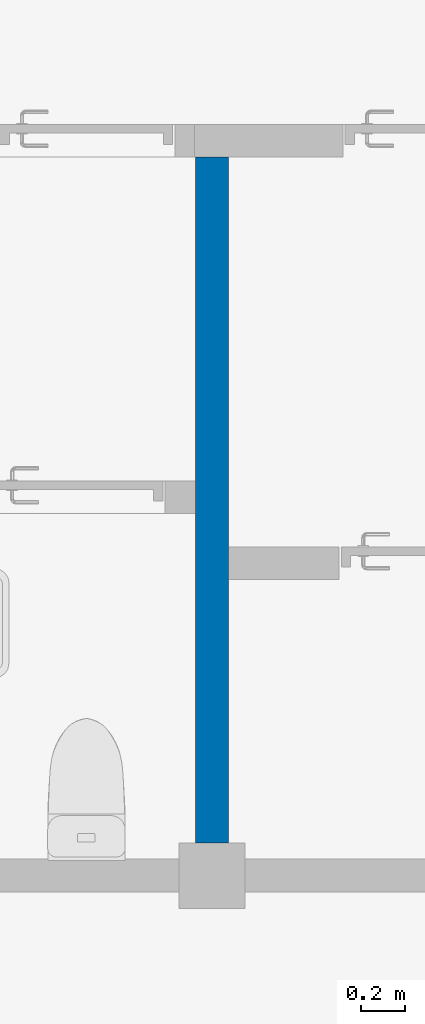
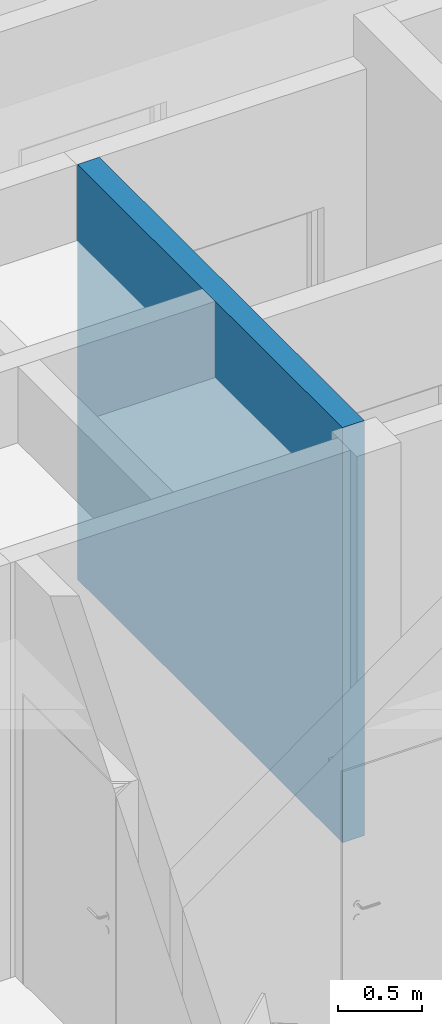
# One storey, part 13 of 58: 1 wall.
"""IFC2X3 building model written with IfcOpenShell, lengths in millimetres."""

from ifc_helpers import new_model, entity, si_unit, converted_unit, derived_unit, direction, frame, frame_2d, origin, place, context, subcontext, project, spatial, polyline, rectangle, extrude, clip, bounded_halfspace, material, layer, layer_set, layer_usage, type_object, element, save


model = new_model("IFC2X3")

# Units and contexts
model_context = context("Model", 3, precision=0.01, world=origin(), true_north=direction((0.7716245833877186, 0.6360782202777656)))
body_context = subcontext(model_context, "Body", "Model", "MODEL_VIEW")
ifc_project = project(units=[si_unit("LENGTHUNIT", "METRE", prefix="MILLI"), si_unit("AREAUNIT", "SQUARE_METRE"), converted_unit("PLANEANGLEUNIT", "DEGREE", entity("IfcPlaneAngleMeasure", 0.017453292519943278), si_unit("PLANEANGLEUNIT", "RADIAN"), dimensions=[0, 0, 0, 0, 0, 0, 0]), derived_unit("THERMALTRANSMITTANCEUNIT", [(si_unit("MASSUNIT", "GRAM", prefix="KILO"), 1), (si_unit("THERMODYNAMICTEMPERATUREUNIT", "KELVIN"), -1), (si_unit("TIMEUNIT", "SECOND"), -3)])], contexts=[model_context])

# Site, building, storey
site_placement = place(None, origin())
site = spatial("IfcSite", under=ifc_project, at=site_placement, Name="Default", CompositionType="ELEMENT")
building_placement = place(site_placement, origin())
building = spatial("IfcBuilding", under=site, at=building_placement, CompositionType="ELEMENT")
storey_placement = place(building_placement, frame((0.0, 0.0, 31140.0)))
storey = spatial("IfcBuildingStorey", under=building, at=storey_placement, Name="PLAN U1", CompositionType="ELEMENT", Elevation=31140.000000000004)

# Wall
ifc_material = material(Name="Eksist. vegg")
ifc_layer = layer(ifc_material, 150.0)
ifc_layer_set = layer_set([ifc_layer], Name="Basic Wall:240 Eksist. Innervegg 150 mm")
ifc_layer_usage = layer_usage(ifc_layer_set, "AXIS2", "NEGATIVE", 75.0)
wall_type = type_object("IfcWallType", Name="Basic Wall:240 Eksist. Innervegg 150 mm", PredefinedType="STANDARD", material=ifc_layer_set)
wall_placement = place(storey_placement, frame((265917.924446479, 62604.50163955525, 0.0), z_axis=(0.0, 0.0, 1.0), x_axis=(0.0, -1.0, 0.0)))
element("IfcWallStandardCase", 1, at=wall_placement, inside=storey, type_object=wall_type, material=ifc_layer_usage, Name="Basic Wall:240 Eksist. Innervegg 150 mm", ObjectType="Basic Wall:240 Eksist. Innervegg 150 mm", context=body_context, shape_type="Clipping", body=[
    clip(extrude(rectangle(XDim=3139.2460894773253, YDim=150.00000000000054, at=frame_2d((1569.6230447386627, 0.0), x_axis=(-1.0, 0.0))), origin(), (0.0, 0.0, 1.0), 2999.9999999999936), bounded_halfspace(frame((3139.2460894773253, -75.0, 3000.0), z_axis=(-1.0, 0.0, 0.0), x_axis=(0.0, 0.0, -1.0)), True, frame((3139.2460894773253, -75.0, 3000.0), z_axis=(-1.0, 0.0, 0.0), x_axis=(0.0, 0.0, -1.0)), polyline([(0.0, 0.0), (0.0, -45720.0), (914400.0, -45720.0), (914400.0, 0.0), (0.0, 0.0)]))),
])

save(model, "model.ifc")
